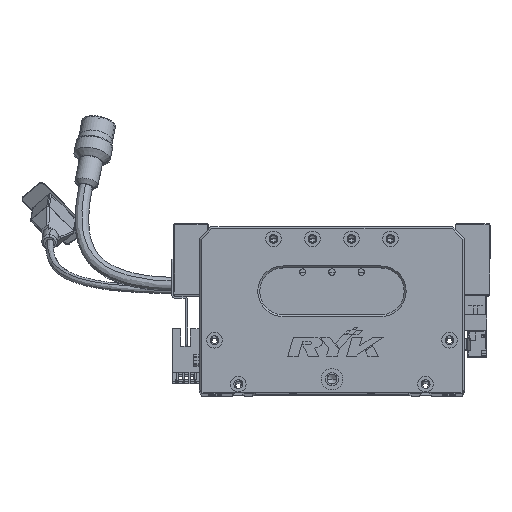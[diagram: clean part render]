
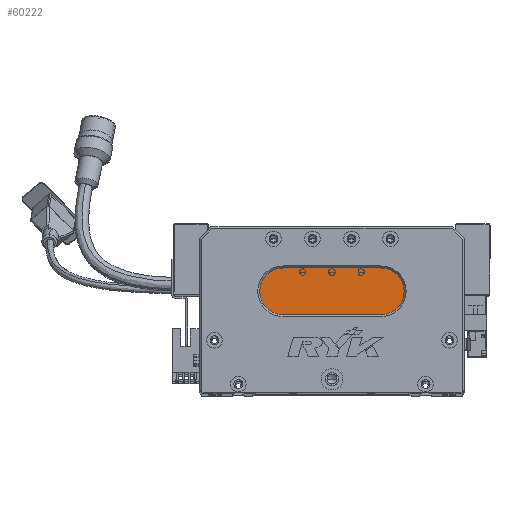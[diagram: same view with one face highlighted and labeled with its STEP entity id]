
A CAD part, top view. The second image highlights one B-rep face of the part: STEP entity #60222.
In plain terms, the highlighted planar face has unit normal (0, 0, 1) as drawn and (0, 0, -1) by its records, which use the part's own axes.
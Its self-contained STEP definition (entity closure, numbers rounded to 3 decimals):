
#259 = DIRECTION ( 'NONE',  ( -1., 0., 0. ) ) ;
#499 = CARTESIAN_POINT ( 'NONE',  ( 31., 52., 13. ) ) ;
#2108 = FACE_OUTER_BOUND ( 'NONE', #67571, .T. ) ;
#4112 = AXIS2_PLACEMENT_3D ( 'NONE', #74027, #62038, #259 ) ;
#4921 = VERTEX_POINT ( 'NONE', #40310 ) ;
#6856 = ORIENTED_EDGE ( 'NONE', *, *, #62304, .T. ) ;
#8999 = DIRECTION ( 'NONE',  ( -1., 0., 0. ) ) ;
#9530 = VERTEX_POINT ( 'NONE', #37101 ) ;
#9914 = CARTESIAN_POINT ( 'NONE',  ( 93., 52., 13. ) ) ;
#11314 = AXIS2_PLACEMENT_3D ( 'NONE', #49540, #61481, #67339 ) ;
#12078 = VECTOR ( 'NONE', #8999, 1000. ) ;
#16412 = VECTOR ( 'NONE', #22257, 1000. ) ;
#21597 = DIRECTION ( 'NONE',  ( 0., 0., -1. ) ) ;
#22257 = DIRECTION ( 'NONE',  ( 1., 0., 0. ) ) ;
#22638 = CIRCLE ( 'NONE', #37973, 12. ) ;
#23386 = EDGE_CURVE ( 'NONE', #42462, #52212, #25297, .T. ) ;
#23719 = CIRCLE ( 'NONE', #11314, 12. ) ;
#25297 = CIRCLE ( 'NONE', #4112, 12. ) ;
#27117 = CARTESIAN_POINT ( 'NONE',  ( 93., 40., 13. ) ) ;
#33249 = ORIENTED_EDGE ( 'NONE', *, *, #63105, .T. ) ;
#36439 = CARTESIAN_POINT ( 'NONE',  ( 43., 64., 13. ) ) ;
#37101 = CARTESIAN_POINT ( 'NONE',  ( 93., 64., 13. ) ) ;
#37973 = AXIS2_PLACEMENT_3D ( 'NONE', #76498, #21597, #63747 ) ;
#40310 = CARTESIAN_POINT ( 'NONE',  ( 43., 40., 13. ) ) ;
#40428 = CARTESIAN_POINT ( 'NONE',  ( 93., 64., 13. ) ) ;
#42462 = VERTEX_POINT ( 'NONE', #499 ) ;
#44576 = LINE ( 'NONE', #27117, #12078 ) ;
#46529 = PLANE ( 'NONE',  #56215 ) ;
#48177 = ORIENTED_EDGE ( 'NONE', *, *, #51964, .T. ) ;
#49540 = CARTESIAN_POINT ( 'NONE',  ( 93., 52., 13. ) ) ;
#50936 = VERTEX_POINT ( 'NONE', #55844 ) ;
#51867 = DIRECTION ( 'NONE',  ( -1., 0., 0. ) ) ;
#51964 = EDGE_CURVE ( 'NONE', #50936, #4921, #44576, .T. ) ;
#52212 = VERTEX_POINT ( 'NONE', #36439 ) ;
#52402 = DIRECTION ( 'NONE',  ( 0., 0., -1. ) ) ;
#55659 = LINE ( 'NONE', #40428, #16412 ) ;
#55844 = CARTESIAN_POINT ( 'NONE',  ( 93., 40., 13. ) ) ;
#56215 = AXIS2_PLACEMENT_3D ( 'NONE', #9914, #52402, #51867 ) ;
#60222 = ADVANCED_FACE ( 'NONE', ( #2108 ), #46529, .T. ) ;
#61481 = DIRECTION ( 'NONE',  ( 0., 0., -1. ) ) ;
#62038 = DIRECTION ( 'NONE',  ( 0., 0., -1. ) ) ;
#62304 = EDGE_CURVE ( 'NONE', #9530, #50936, #23719, .T. ) ;
#63105 = EDGE_CURVE ( 'NONE', #4921, #42462, #22638, .T. ) ;
#63747 = DIRECTION ( 'NONE',  ( -1., 0., 0. ) ) ;
#64053 = ORIENTED_EDGE ( 'NONE', *, *, #70617, .T. ) ;
#67339 = DIRECTION ( 'NONE',  ( -1., 0., 0. ) ) ;
#67571 = EDGE_LOOP ( 'NONE', ( #6856, #48177, #33249, #68373, #64053 ) ) ;
#68373 = ORIENTED_EDGE ( 'NONE', *, *, #23386, .T. ) ;
#70617 = EDGE_CURVE ( 'NONE', #52212, #9530, #55659, .T. ) ;
#74027 = CARTESIAN_POINT ( 'NONE',  ( 43., 52., 13. ) ) ;
#76498 = CARTESIAN_POINT ( 'NONE',  ( 43., 52., 13. ) ) ;
